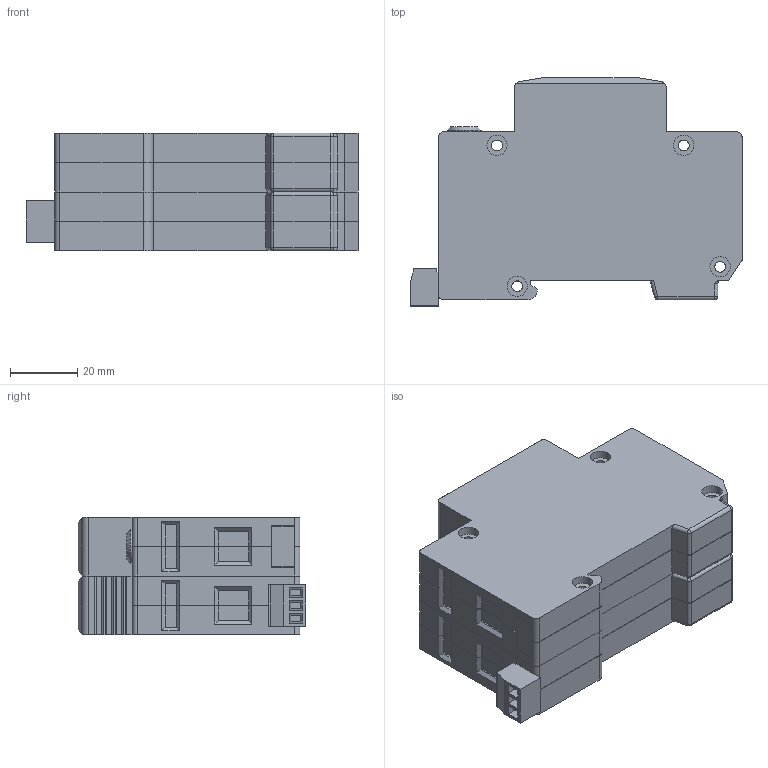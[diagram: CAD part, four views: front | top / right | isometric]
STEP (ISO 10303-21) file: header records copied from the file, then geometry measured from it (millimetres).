
FILE_DESCRIPTION(/* description */ (''),/* implementation_level */ '2;1');
FILE_NAME(/* name */ 'K:\PROJEKTY ROZPRACOVANÉ\MODELY DO KATALOGU\HSA, HLSA 24520, 10007\3D - STEP\H 1+1 M S.stp',/* time_stamp */ '2022-04-01T07:53:01+02:00',/* author */ ('miko'),/* organization */ (''),/* preprocessor_version */ 'ST-DEVELOPER v18.1',/* originating_system */ 'Autodesk Inventor 2022',/* authorisation */ '');
FILE_SCHEMA (('AUTOMOTIVE_DESIGN { 1 0 10303 214 3 1 1 }'));
Length unit declared in the file: millimetre
Products named in the file (10): H 1+1 M S; HSA M S; HSA M S_1; KONEKTOR DEGSON 15EDGK 3.81; KONEKTOR SAMEC; ISO 2009 - M1,6 x 2,5; KONEKTOR DEGSON 15EDGRC 3.81 (OBRÁCENÉ VÝV
ODY); HGDT (Z); HGDT (Z)_1; DIN 7985 (H) - M5x6-H
Assembly tree (13 placements, depth 4):
  H 1+1 M S
    HSA M S
      HSA M S_1
      DIN 7985 (H) - M5x6-H  x2
      KONEKTOR DEGSON 15EDGK 3.81
        KONEKTOR SAMEC
        ISO 2009 - M1,6 x 2,5  x3
      KONEKTOR DEGSON 15EDGRC 3.81 (OBRÁCENÉ VÝV
ODY)
    HGDT (Z)
      HGDT (Z)_1
      DIN 7985 (H) - M5x6-H
Bounding box: 98.5 x 67.6 x 35 mm (x, y, z)
Volume: 169226.2 mm3; surface area: 40445.4 mm2
Topology: 10 solids, 10 shells, 868 faces, 2291 edges, 1497 vertices
Faces by surface type: plane 627, cylinder 153, cone 64, torus 13, sphere 11
Full cylindrical faces by diameter (mm): 0.968 x3, 1 x6, 1.171 x3, 1.6 x3, 1.9 x3, 2 x3, 2.5 x3, 3.2 x8, 4.6 x3, 5 x3, 6 x16, 10 x1
Entity records: 23923 total; most frequent: CARTESIAN_POINT 4209, ORIENTED_EDGE 4046, DIRECTION 3944, EDGE_CURVE 2023, LINE 1624, VECTOR 1624, VERTEX_POINT 1321, AXIS2_PLACEMENT_3D 1160
